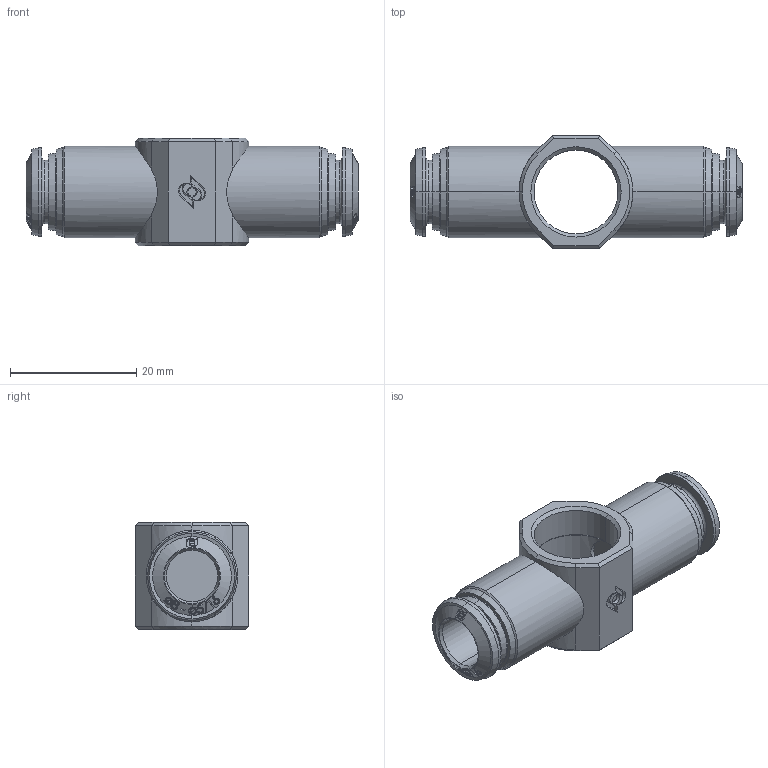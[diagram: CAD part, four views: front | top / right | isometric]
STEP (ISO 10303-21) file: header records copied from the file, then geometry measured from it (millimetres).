
FILE_DESCRIPTION (( 'STEP AP214' ), '1' );
FILE_NAME ('5051000007.step', '2012-10-01T16:56:23', ( '' ), ( '' ), 'SwSTEP 2.0', 'SolidWorks 2012', '' );
FILE_SCHEMA (( 'AUTOMOTIVE_DESIGN' ));
Length unit declared in the file: millimetre
Products named in the file (1): 5051000007
Bounding box: 52.6 x 18 x 17 mm (x, y, z)
Volume: 6542.7 mm3; surface area: 4649.3 mm2
Topology: 1 solids, 3 shells, 448 faces, 1109 edges, 709 vertices
Faces by surface type: bspline 222, cone 104, plane 58, cylinder 52, torus 12
Entity records: 29650 total; most frequent: CARTESIAN_POINT 16011, ORIENTED_EDGE 2218, EDGE_CURVE 1109, DIRECTION 1026, B_SPLINE_CURVE_WITH_KNOTS 718, VERTEX_POINT 709, EDGE_LOOP 496, UNCERTAINTY_MEASURE_WITH_UNIT 451
